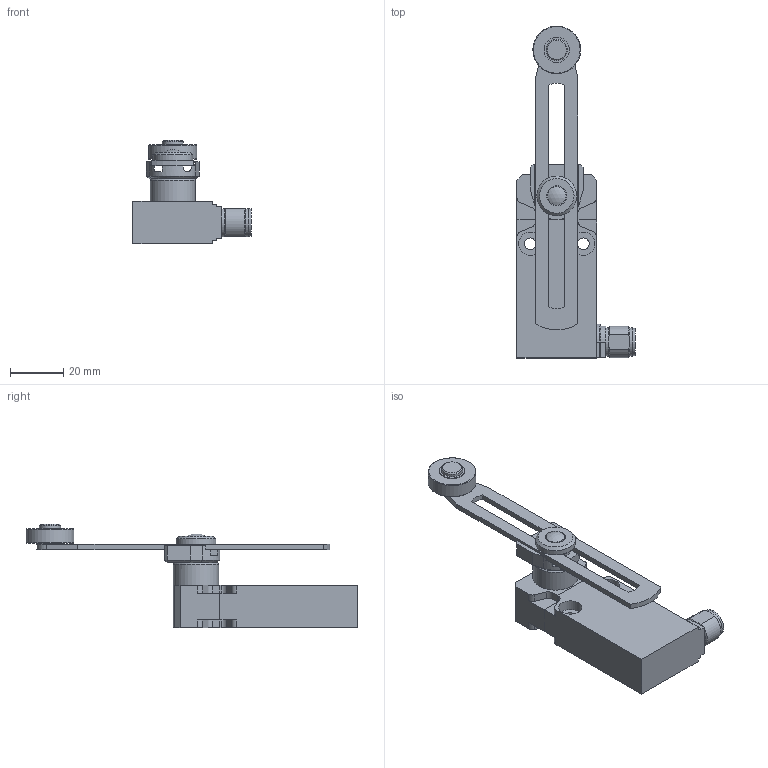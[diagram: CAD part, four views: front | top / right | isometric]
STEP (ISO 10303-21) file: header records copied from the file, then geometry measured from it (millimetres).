
FILE_DESCRIPTION(/* description */ (''),/* implementation_level */ '2;1');
FILE_NAME(/* name */ 'C:\Users\servizio.tecnico\Desktop\CADENAS\3D\EP1_STP\STP_EP1_G51M.stp',/* time_stamp */ '2017-09-04T11:49:59+02:00',/* author */ ('servizio.tecnico'),/* organization */ (''),/* preprocessor_version */ 'ST-DEVELOPER v16.1',/* originating_system */ 'Autodesk Inventor 2016',/* authorisation */ '');
FILE_SCHEMA (('AUTOMOTIVE_DESIGN { 1 0 10303 214 3 1 1 }'));
Length unit declared in the file: millimetre
Products named in the file (3): Product; EP1G51-M; BASE ASSI 
Assembly tree (2 placements, depth 3):
  BASE ASSI 
    EP1G51-M
      Product
Bounding box: 44.5 x 125 x 39.1 mm (x, y, z)
Volume: 39870 mm3; surface area: 15864.1 mm2
Topology: 5 solids, 5 shells, 186 faces, 455 edges, 297 vertices
Faces by surface type: plane 118, cylinder 56, cone 7, torus 4, sphere 1
Full cylindrical faces by diameter (mm): 4.4 x2, 6 x2, 7 x1, 7.6 x1, 8 x1, 8.7 x4, 9.5 x2, 10.3 x1, 10.6 x2, 11 x1, 15 x1, 17 x1, 18 x1
Entity records: 5463 total; most frequent: CARTESIAN_POINT 947, DIRECTION 926, ORIENTED_EDGE 854, EDGE_CURVE 427, AXIS2_PLACEMENT_3D 317, VERTEX_POINT 294, LINE 292, VECTOR 292
